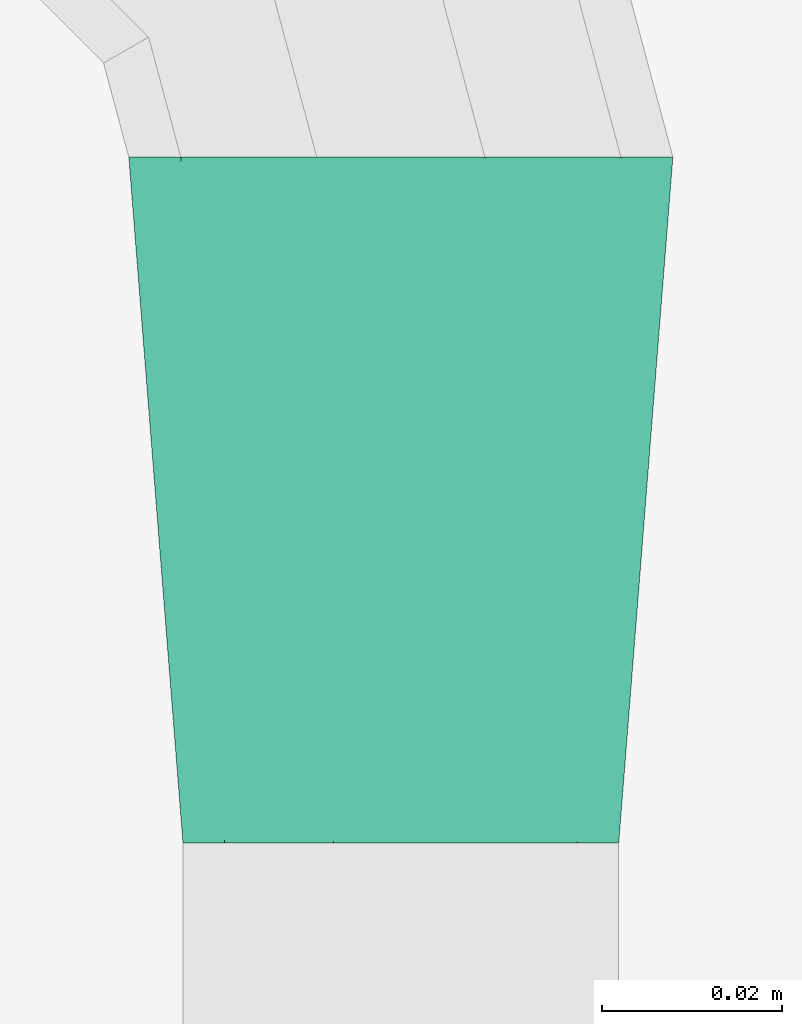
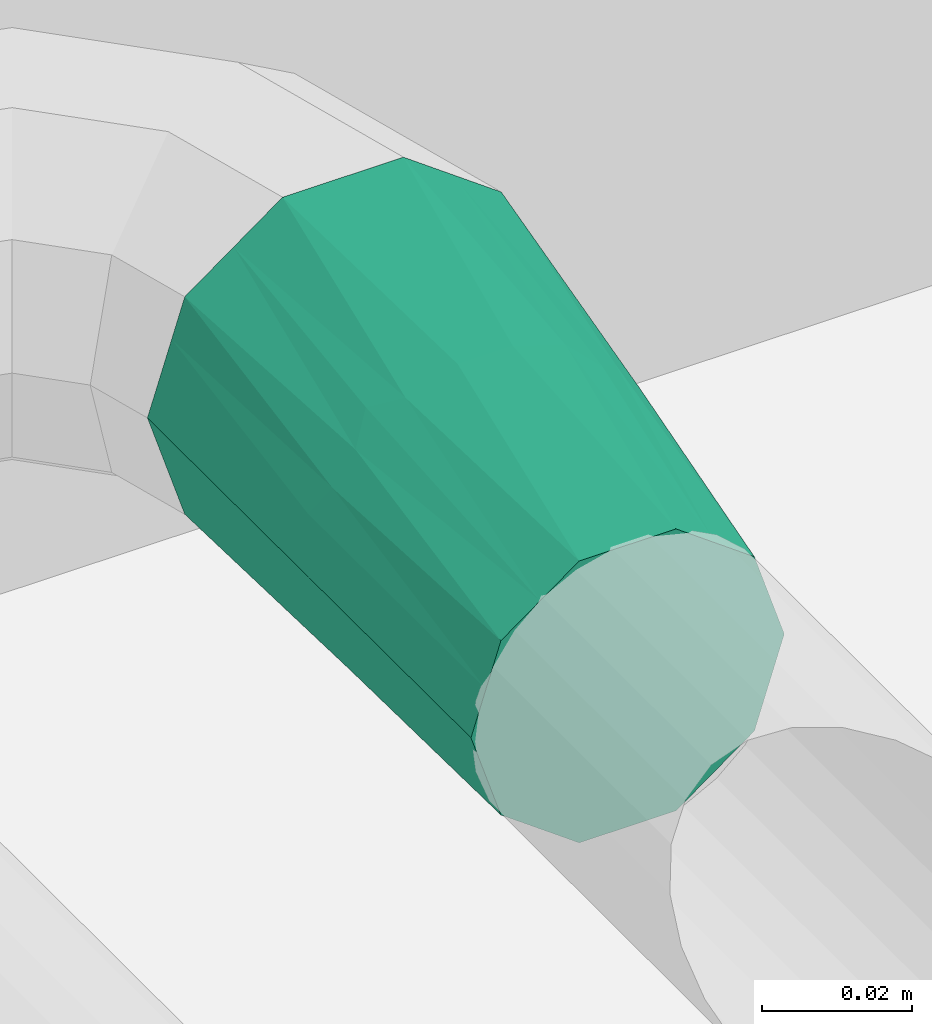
# One storey, part 90 of 94: 1 flow fitting.
"""IFC2X3 building model written with IfcOpenShell, lengths in millimetres."""

from ifc_helpers import new_model, entity, si_unit, converted_unit, derived_unit, direction, frame, origin, place, context, subcontext, project, spatial, faceted_brep, source, transform, mapped, material, type_object, type_shapes, element, save


model = new_model("IFC2X3")

# Units and contexts
model_context = context("Model", 3, precision=0.01, world=origin(), true_north=direction((6.123031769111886e-17, 1.0)))
body_context = subcontext(model_context, "Body", "Model", "MODEL_VIEW")
ifc_project = project(units=[si_unit("LENGTHUNIT", "METRE", prefix="MILLI"), si_unit("AREAUNIT", "SQUARE_METRE"), si_unit("VOLUMEUNIT", "CUBIC_METRE"), converted_unit("PLANEANGLEUNIT", "DEGREE", entity("IfcRatioMeasure", 0.017453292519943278), si_unit("PLANEANGLEUNIT", "RADIAN"), dimensions=[0, 0, 0, 0, 0, 0, 0]), si_unit("MASSUNIT", "GRAM", prefix="KILO"), derived_unit("MASSDENSITYUNIT", [(si_unit("MASSUNIT", "GRAM", prefix="KILO"), 1), (si_unit("LENGTHUNIT", "METRE"), -3)]), derived_unit("IONCONCENTRATIONUNIT", [(si_unit("MASSUNIT", "GRAM", prefix="KILO"), 1), (si_unit("LENGTHUNIT", "METRE"), -3)]), derived_unit("MOMENTOFINERTIAUNIT", [(si_unit("LENGTHUNIT", "METRE"), 4)]), si_unit("TIMEUNIT", "SECOND"), si_unit("FREQUENCYUNIT", "HERTZ"), si_unit("THERMODYNAMICTEMPERATUREUNIT", "DEGREE_CELSIUS"), derived_unit("THERMALTRANSMITTANCEUNIT", [(si_unit("MASSUNIT", "GRAM", prefix="KILO"), 1), (si_unit("THERMODYNAMICTEMPERATUREUNIT", "KELVIN"), -1), (si_unit("TIMEUNIT", "SECOND"), -3)]), derived_unit("THERMALCONDUCTANCEUNIT", [(si_unit("MASSUNIT", "GRAM", prefix="KILO"), 1), (si_unit("THERMODYNAMICTEMPERATUREUNIT", "KELVIN"), -1), (si_unit("TIMEUNIT", "SECOND"), -3), (si_unit("LENGTHUNIT", "METRE"), 1)]), derived_unit("VOLUMETRICFLOWRATEUNIT", [(si_unit("LENGTHUNIT", "METRE"), 3), (si_unit("TIMEUNIT", "SECOND"), -1)]), derived_unit("MASSFLOWRATEUNIT", [(si_unit("MASSUNIT", "GRAM", prefix="KILO"), 1), (si_unit("TIMEUNIT", "SECOND"), -1)]), derived_unit("ROTATIONALFREQUENCYUNIT", [(si_unit("TIMEUNIT", "SECOND"), -1)]), si_unit("ELECTRICCURRENTUNIT", "AMPERE"), si_unit("ELECTRICVOLTAGEUNIT", "VOLT"), si_unit("POWERUNIT", "WATT"), si_unit("FORCEUNIT", "NEWTON", prefix="KILO"), si_unit("ILLUMINANCEUNIT", "LUX"), si_unit("LUMINOUSFLUXUNIT", "LUMEN"), si_unit("LUMINOUSINTENSITYUNIT", "CANDELA"), derived_unit("USERDEFINED", [(si_unit("MASSUNIT", "GRAM", prefix="KILO"), -1), (si_unit("LENGTHUNIT", "METRE"), -2), (si_unit("TIMEUNIT", "SECOND"), 3), (si_unit("LUMINOUSFLUXUNIT", "LUMEN"), 1)]), derived_unit("USERDEFINED", [(si_unit("MASSUNIT", "GRAM", prefix="KILO"), 1), (si_unit("TIMEUNIT", "SECOND"), -3), (si_unit("LENGTHUNIT", "METRE"), 3), (si_unit("ELECTRICCURRENTUNIT", "AMPERE"), -2)]), derived_unit("SOUNDPOWERUNIT", [(si_unit("MASSUNIT", "GRAM", prefix="KILO"), 1), (si_unit("TIMEUNIT", "SECOND"), -3), (si_unit("LENGTHUNIT", "METRE"), 2)]), derived_unit("SOUNDPRESSUREUNIT", [(si_unit("MASSUNIT", "GRAM", prefix="KILO"), 1), (si_unit("LENGTHUNIT", "METRE"), -1), (si_unit("TIMEUNIT", "SECOND"), -2)]), derived_unit("LINEARVELOCITYUNIT", [(si_unit("LENGTHUNIT", "METRE"), 1), (si_unit("TIMEUNIT", "SECOND"), -1)]), si_unit("PRESSUREUNIT", "PASCAL"), derived_unit("USERDEFINED", [(si_unit("MASSUNIT", "GRAM", prefix="KILO"), 1), (si_unit("LENGTHUNIT", "METRE"), -2), (si_unit("TIMEUNIT", "SECOND"), -2)]), derived_unit("LINEARFORCEUNIT", [(si_unit("MASSUNIT", "GRAM", prefix="KILO"), 1), (si_unit("TIMEUNIT", "SECOND"), -2)]), derived_unit("PLANARFORCEUNIT", [(si_unit("MASSUNIT", "GRAM", prefix="KILO"), 1), (si_unit("LENGTHUNIT", "METRE"), -1), (si_unit("TIMEUNIT", "SECOND"), -2)]), derived_unit("SPECIFICHEATCAPACITYUNIT", [(si_unit("THERMODYNAMICTEMPERATUREUNIT", "KELVIN"), -1), (si_unit("LENGTHUNIT", "METRE"), 2), (si_unit("TIMEUNIT", "SECOND"), -2)]), derived_unit("HEATINGVALUEUNIT", [(si_unit("LENGTHUNIT", "METRE"), 2), (si_unit("TIMEUNIT", "SECOND"), -2)]), derived_unit("VAPORPERMEABILITYUNIT", [(si_unit("LENGTHUNIT", "METRE"), -1), (si_unit("TIMEUNIT", "SECOND"), 1)]), derived_unit("DYNAMICVISCOSITYUNIT", [(si_unit("MASSUNIT", "GRAM", prefix="KILO"), 1), (si_unit("TIMEUNIT", "SECOND"), -1), (si_unit("LENGTHUNIT", "METRE"), -1)]), derived_unit("THERMALEXPANSIONCOEFFICIENTUNIT", [(si_unit("THERMODYNAMICTEMPERATUREUNIT", "KELVIN"), -1)]), derived_unit("MODULUSOFELASTICITYUNIT", [(si_unit("MASSUNIT", "GRAM", prefix="KILO"), 1), (si_unit("LENGTHUNIT", "METRE"), -1), (si_unit("TIMEUNIT", "SECOND"), -2)]), derived_unit("ISOTHERMALMOISTURECAPACITYUNIT", [(si_unit("LENGTHUNIT", "METRE"), 3), (si_unit("MASSUNIT", "GRAM", prefix="KILO"), -1)]), derived_unit("MOISTUREDIFFUSIVITYUNIT", [(si_unit("TIMEUNIT", "SECOND"), -1), (si_unit("LENGTHUNIT", "METRE"), 2)])], contexts=[model_context])

# Site, building, storey
site_placement = place(None, origin())
site = spatial("IfcSite", under=ifc_project, at=site_placement, Name="Default", CompositionType="ELEMENT")
building_placement = place(site_placement, origin())
building = spatial("IfcBuilding", under=site, at=building_placement, CompositionType="ELEMENT")
storey_placement = place(building_placement, origin())
storey = spatial("IfcBuildingStorey", under=building, at=storey_placement, Name="Niveau 0", CompositionType="ELEMENT", Elevation=0.0)

# Flow fitting
ifc_material = material(Name="<Unnamed>")
pipe_fitting_type = type_object("IfcPipeFittingType", Name="Transformation - Générique:Standard", PredefinedType="NOTDEFINED", material=ifc_material)
shared_shape = source(origin(), body_context, "Body", "Brep", [
    faceted_brep([(76.0, 24.149999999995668, -8.142128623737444), (76.0, 21.843880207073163, -1.0446217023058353), (76.0, 19.537760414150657, 6.052885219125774), (76.0, 13.500260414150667, 10.439385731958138), (76.0, 7.462760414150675, 14.825886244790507), (76.0, 0.0, 14.825886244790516), (76.0, -7.462760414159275, 14.825886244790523), (76.0, -13.500260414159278, 10.439385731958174), (76.0, -19.53776041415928, 6.052885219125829), (76.0, -21.843880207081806, -1.0446217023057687), (76.0, -24.150000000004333, -8.142128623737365), (76.0, -21.84388020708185, -15.23963554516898), (76.0, -19.537760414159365, -22.337142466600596), (76.0, -13.500260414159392, -26.723642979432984), (76.0, -7.462760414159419, -31.110143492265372), (76.0, 0.0, -31.110143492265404), (76.0, 7.462760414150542, -31.110143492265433), (76.0, 13.500260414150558, -26.7236429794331), (76.0, 19.53776041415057, -22.337142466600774), (76.0, 21.84388020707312, -15.239635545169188), (0.0, -30.15, 0.0), (0.0, -28.283215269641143, 5.745372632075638), (0.0, -26.416430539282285, 11.49074526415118), (0.0, -24.39186238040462, 17.72172535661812), (0.0, -16.854362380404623, 23.198039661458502), (0.0, -9.316862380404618, 28.674353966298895), (0.0, 0.0, 28.67435396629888), (0.0, 9.316862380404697, 28.67435396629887), (0.0, 16.854362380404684, 23.198039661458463), (0.0, 24.391862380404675, 17.72172535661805), (0.0, 26.416430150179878, 11.490746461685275), (0.0, 28.283215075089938, 5.745373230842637), (0.0, 30.15, 0.0), (0.0, 28.267634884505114, -5.793324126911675), (0.0, 26.385269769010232, -11.586648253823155), (0.0, 24.391862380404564, -17.721725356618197), (0.0, 16.854362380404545, -23.19803966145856), (0.0, 9.316862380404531, -28.67435396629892), (0.0, 0.0, -28.67435396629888), (0.0, -9.316862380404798, -28.67435396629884), (0.0, -16.854362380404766, -23.19803966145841), (0.0, -24.391862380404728, -17.721725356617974), (0.0, -26.385269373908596, -11.586649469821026), (0.0, -28.267634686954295, -5.793324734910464), (37.99999982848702, -23.56722554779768, -17.550989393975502), (35.62708605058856, -26.001702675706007, -12.257305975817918), (38.0, 23.567226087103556, -17.550988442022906), (38.0, 19.923889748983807, -22.5145216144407), (38.0, 12.325842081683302, -28.261891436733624), (38.0, -12.32584195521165, -28.261891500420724), (41.47344137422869, -16.21350023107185, -25.8775039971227), (38.0, -19.923888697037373, -22.51452275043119), (38.0, 27.149999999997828, -4.0710643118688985), (38.0, -4.247195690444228, -30.886802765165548), (38.0, 4.247195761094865, -30.88680275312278), (34.526561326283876, 16.54436006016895, -25.570658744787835), (35.62708871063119, 26.00170293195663, -12.257304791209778), (38.0, -27.150000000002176, -4.0710643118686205), (37.99999985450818, 23.59010878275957, 9.368774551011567), (35.73477731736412, 26.00360778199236, 4.578608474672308), (38.0, -23.590109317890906, 9.368773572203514), (38.0, -19.98852352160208, 14.302324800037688), (38.0, -12.325842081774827, 20.119762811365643), (38.0, 12.325841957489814, 20.11976288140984), (41.19479945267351, 16.264405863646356, 17.010009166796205), (38.0, 19.988522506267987, 14.302325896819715), (38.0, 4.24719569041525, 22.744674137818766), (38.0, -4.24719576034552, 22.744674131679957), (34.80520310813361, -16.569429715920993, 18.09632108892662), (35.73477978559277, -26.00360805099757, 4.578606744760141)], [[[0, 1, 2, 3, 4, 5, 6, 7, 8, 9, 10, 11, 12, 13, 14, 15, 16, 17, 18, 19]], [[20, 21, 22, 23, 24, 25, 26, 27, 28, 29, 30, 31, 32, 33, 34, 35, 36, 37, 38, 39, 40, 41, 42, 43]], [[42, 44, 45]], [[35, 46, 47]], [[16, 48, 17]], [[49, 50, 40]], [[42, 41, 44]], [[51, 44, 41]], [[49, 40, 39]], [[0, 19, 52]], [[52, 33, 32]], [[14, 49, 53]], [[11, 45, 44]], [[16, 54, 48]], [[15, 53, 54]], [[13, 12, 51]], [[46, 18, 47]], [[48, 55, 17]], [[19, 46, 56]], [[12, 44, 51]], [[13, 50, 49]], [[40, 51, 41]], [[15, 14, 53]], [[15, 54, 16]], [[37, 54, 53, 39, 38]], [[11, 44, 12]], [[46, 35, 34]], [[56, 52, 19]], [[56, 46, 34]], [[19, 18, 46]], [[17, 47, 18]], [[36, 35, 47]], [[33, 52, 56]], [[11, 57, 45]], [[57, 43, 45]], [[43, 42, 45]], [[56, 34, 33]], [[53, 49, 39]], [[13, 49, 14]], [[48, 54, 37]], [[37, 36, 48]], [[55, 48, 36]], [[57, 11, 10]], [[20, 43, 57]], [[13, 51, 50]], [[40, 50, 51]], [[36, 47, 55]], [[17, 55, 47]], [[30, 58, 59]], [[23, 60, 61]], [[6, 62, 7]], [[63, 64, 28]], [[30, 29, 58]], [[65, 58, 29]], [[63, 28, 27]], [[10, 9, 57]], [[57, 21, 20]], [[4, 63, 66]], [[1, 59, 58]], [[6, 67, 62]], [[5, 4, 66, 67, 6]], [[3, 2, 65]], [[60, 8, 61]], [[62, 68, 7]], [[9, 60, 69]], [[2, 58, 65]], [[3, 64, 63]], [[28, 65, 29]], [[25, 67, 66, 27, 26]], [[1, 58, 2]], [[60, 23, 22]], [[69, 57, 9]], [[69, 60, 22]], [[9, 8, 60]], [[7, 61, 8]], [[24, 23, 61]], [[21, 57, 69]], [[1, 52, 59]], [[52, 31, 59]], [[31, 30, 59]], [[69, 22, 21]], [[66, 63, 27]], [[3, 63, 4]], [[62, 67, 25]], [[25, 24, 62]], [[68, 62, 24]], [[52, 1, 0]], [[32, 31, 52]], [[3, 65, 64]], [[28, 64, 65]], [[24, 61, 68]], [[7, 68, 61]]]),
])
type_shapes(pipe_fitting_type, [shared_shape])
flow_fitting_placement = place(storey_placement, frame((-11869.2907042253, 9234.477679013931, 718.3753033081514), z_axis=(0.0, 0.0, 1.0), x_axis=(0.0, -1.0, 0.0)))
element("IfcFlowFitting", 1, at=flow_fitting_placement, inside=storey, type_object=pipe_fitting_type, material=ifc_material, Name="Transformation - Générique:Standard", ObjectType="Transformation - Générique:Standard", context=body_context, shape_type="MappedRepresentation", body=[
    mapped(shared_shape, transform((0.0, 0.0, 0.0), scale=1.0)),
])

save(model, "model.ifc")
